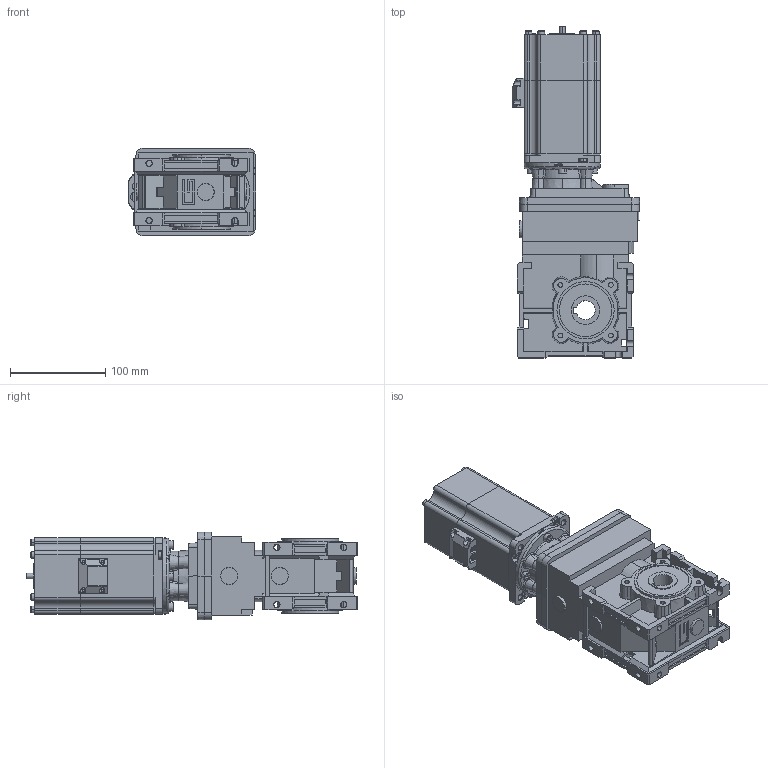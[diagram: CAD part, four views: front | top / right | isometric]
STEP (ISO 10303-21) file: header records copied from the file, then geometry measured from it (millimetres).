
FILE_DESCRIPTION (( 'STEP AP214' ), '1' );
FILE_NAME ('CMB402+BL070.48.80.STEP', '2021-05-05T08:35:51', ( '' ), ( '' ), 'SwSTEP 2.0', 'SolidWorks 2020', '' );
FILE_SCHEMA (( 'AUTOMOTIVE_DESIGN' ));
Length unit declared in the file: millimetre
Products named in the file (19): 6004.stp; 6SCHHM514ZC_Semplice; ASM0005_ASM.stp; 80C.stp; BL070.48.80 INT; CMB402_U_56B14; M4X55.stp; 1_2_05_130169.stp; CMB402+BL070.48.80; CMB_402_U_D20_No PAM; BL070.48.80.stp; ROTOR2_ASM.stp; W04004080; BXW-05-10R.stp; 600201.stp; 0000309667.stp; 80FQIANGAI.stp; SHAFT2GAICHANG.stp; 80RGAIHOUGAI.stp
Assembly tree (27 placements, depth 5):
  CMB402+BL070.48.80
    BL070.48.80 INT
      BL070.48.80.stp
        ASM0005_ASM.stp
          80RGAIHOUGAI.stp
          BXW-05-10R.stp
        ROTOR2_ASM.stp
          SHAFT2GAICHANG.stp
          6004.stp
          600201.stp
        80FQIANGAI.stp
        80C.stp
        1_2_05_130169.stp  x4
        M4X55.stp  x4
        0000309667.stp
    CMB402_U_56B14
      CMB_402_U_D20_No PAM
      W04004080
    6SCHHM514ZC_Semplice  x4
Bounding box: 134 x 348 x 92 mm (x, y, z)
Volume: 1593730.6 mm3; surface area: 301224.2 mm2
Topology: 12 solids, 48 shells, 1843 faces, 4742 edges, 3052 vertices
Faces by surface type: plane 891, cylinder 442, cone 287, torus 96, bspline 76, sphere 51
Entity records: 63552 total; most frequent: CARTESIAN_POINT 16972, ORIENTED_EDGE 8456, DIRECTION 8160, EDGE_CURVE 4260, AXIS2_PLACEMENT_3D 2906, VERTEX_POINT 2758, VECTOR 2348, LINE 2348
